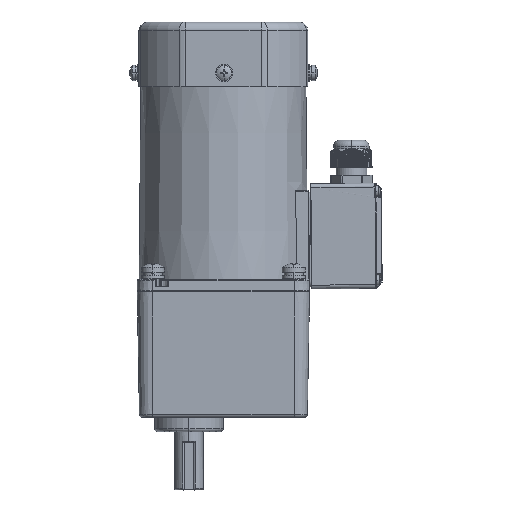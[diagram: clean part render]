
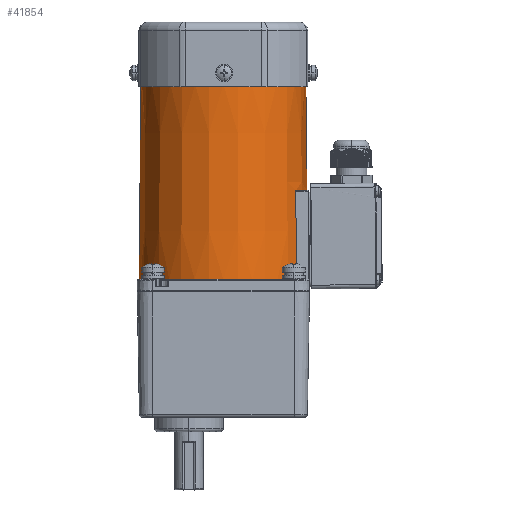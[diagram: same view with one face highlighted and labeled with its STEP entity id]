
A CAD part, front view. The second image highlights one B-rep face of the part: STEP entity #41854.
In plain terms, the highlighted conical face has half-angle 0.5 degrees and reference radius 43.555 mm.
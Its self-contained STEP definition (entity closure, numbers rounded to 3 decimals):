
#572 = DIRECTION ( 'NONE',  ( 0., 0., 1. ) ) ;
#625 = CIRCLE ( 'NONE', #27853, 43.11 ) ;
#675 = VERTEX_POINT ( 'NONE', #61300 ) ;
#1633 = CARTESIAN_POINT ( 'NONE',  ( 37.876, -21.589, 53.28 ) ) ;
#2283 = EDGE_CURVE ( 'NONE', #50212, #17823, #48586, .T. ) ;
#2786 = VECTOR ( 'NONE', #40313, 1000. ) ;
#2828 = EDGE_CURVE ( 'NONE', #50889, #47257, #16838, .T. ) ;
#2887 = VERTEX_POINT ( 'NONE', #51611 ) ;
#3732 = AXIS2_PLACEMENT_3D ( 'NONE', #17536, #31770, #50985 ) ;
#5207 = ORIENTED_EDGE ( 'NONE', *, *, #2828, .T. ) ;
#5671 = DIRECTION ( 'NONE',  ( 0., 0., 1. ) ) ;
#7629 = CARTESIAN_POINT ( 'NONE',  ( 38.028, -21.866, 22.401 ) ) ;
#8592 = CIRCLE ( 'NONE', #13634, 44. ) ;
#9164 = EDGE_CURVE ( 'NONE', #41836, #47257, #46296, .T. ) ;
#9246 = EDGE_LOOP ( 'NONE', ( #42943, #30134, #49096, #36566, #45842, #31747, #5207 ) ) ;
#12141 = VECTOR ( 'NONE', #23699, 1000. ) ;
#12344 = CARTESIAN_POINT ( 'NONE',  ( 38.105, -22., 7. ) ) ;
#13489 = EDGE_CURVE ( 'NONE', #2887, #675, #53435, .T. ) ;
#13634 = AXIS2_PLACEMENT_3D ( 'NONE', #30282, #5671, #53007 ) ;
#14198 = CARTESIAN_POINT ( 'NONE',  ( -43.11, 0., 109. ) ) ;
#16838 = CIRCLE ( 'NONE', #3732, 43.594 ) ;
#17536 = CARTESIAN_POINT ( 'NONE',  ( 0., 0., 53.5 ) ) ;
#17823 = VERTEX_POINT ( 'NONE', #44657 ) ;
#18993 = DIRECTION ( 'NONE',  ( 0., 0., -1. ) ) ;
#20582 = CARTESIAN_POINT ( 'NONE',  ( 37.872, -21.597, 53.203 ) ) ;
#20891 = CARTESIAN_POINT ( 'NONE',  ( 37.95, -21.454, 53.469 ) ) ;
#20972 = EDGE_CURVE ( 'NONE', #50212, #41836, #625, .T. ) ;
#21108 = CARTESIAN_POINT ( 'NONE',  ( -43.11, 0., 109. ) ) ;
#22153 = CARTESIAN_POINT ( 'NONE',  ( 37.872, -21.597, 53.203 ) ) ;
#23699 = DIRECTION ( 'NONE',  ( -0.009, 0., -1. ) ) ;
#24182 = EDGE_CURVE ( 'NONE', #675, #50889, #51400, .T. ) ;
#25641 = CARTESIAN_POINT ( 'NONE',  ( 37.909, -21.528, 53.393 ) ) ;
#27031 = CARTESIAN_POINT ( 'NONE',  ( 38.038, -21.297, 53.5 ) ) ;
#27718 = CONICAL_SURFACE ( 'NONE', #53910, 43.555, 0.009 ) ;
#27853 = AXIS2_PLACEMENT_3D ( 'NONE', #29932, #572, #59566 ) ;
#28259 = CARTESIAN_POINT ( 'NONE',  ( 37.872, -21.596, 53.243 ) ) ;
#29932 = CARTESIAN_POINT ( 'NONE',  ( 0., 0., 109. ) ) ;
#30134 = ORIENTED_EDGE ( 'NONE', *, *, #20972, .F. ) ;
#30282 = CARTESIAN_POINT ( 'NONE',  ( 0., 0., 7. ) ) ;
#31747 = ORIENTED_EDGE ( 'NONE', *, *, #24182, .T. ) ;
#31770 = DIRECTION ( 'NONE',  ( 0., 0., 1. ) ) ;
#36566 = ORIENTED_EDGE ( 'NONE', *, *, #57410, .T. ) ;
#39839 = CARTESIAN_POINT ( 'NONE',  ( 37.903, -21.538, 53.379 ) ) ;
#40313 = DIRECTION ( 'NONE',  ( 0.009, 0., -1. ) ) ;
#41836 = VERTEX_POINT ( 'NONE', #46803 ) ;
#41854 = ADVANCED_FACE ( 'NONE', ( #61600 ), #27718, .T. ) ;
#42793 = CARTESIAN_POINT ( 'NONE',  ( 38.038, -21.297, 53.5 ) ) ;
#42943 = ORIENTED_EDGE ( 'NONE', *, *, #9164, .F. ) ;
#44657 = CARTESIAN_POINT ( 'NONE',  ( -44., 0., 7. ) ) ;
#45842 = ORIENTED_EDGE ( 'NONE', *, *, #13489, .T. ) ;
#46130 = CARTESIAN_POINT ( 'NONE',  ( 37.95, -21.731, 37.802 ) ) ;
#46296 = LINE ( 'NONE', #60483, #2786 ) ;
#46803 = CARTESIAN_POINT ( 'NONE',  ( 43.11, 0., 109. ) ) ;
#47257 = VERTEX_POINT ( 'NONE', #59949 ) ;
#47511 = CARTESIAN_POINT ( 'NONE',  ( 37.991, -21.382, 53.5 ) ) ;
#48586 = LINE ( 'NONE', #14198, #12141 ) ;
#49096 = ORIENTED_EDGE ( 'NONE', *, *, #2283, .T. ) ;
#50212 = VERTEX_POINT ( 'NONE', #21108 ) ;
#50889 = VERTEX_POINT ( 'NONE', #27031 ) ;
#50985 = DIRECTION ( 'NONE',  ( 0.873, -0.489, 0. ) ) ;
#51400 = B_SPLINE_CURVE_WITH_KNOTS ( 'NONE', 3,
 ( #20582, #28259, #1633, #62024, #53710, #39839, #25641, #20891, #47511, #42793 ),
 .UNSPECIFIED., .F., .F.,
 ( 4, 2, 2, 2, 4 ),
 ( 0., 0.25, 0.375, 0.5, 1. ),
 .UNSPECIFIED. ) ;
#51611 = CARTESIAN_POINT ( 'NONE',  ( 38.105, -22., 7. ) ) ;
#53007 = DIRECTION ( 'NONE',  ( -1., 0., 0. ) ) ;
#53435 = B_SPLINE_CURVE_WITH_KNOTS ( 'NONE', 3,
 ( #12344, #7629, #46130, #22153 ),
 .UNSPECIFIED., .F., .F.,
 ( 4, 4 ),
 ( 0., 1. ),
 .UNSPECIFIED. ) ;
#53710 = CARTESIAN_POINT ( 'NONE',  ( 37.892, -21.559, 53.348 ) ) ;
#53910 = AXIS2_PLACEMENT_3D ( 'NONE', #62242, #18993, #57486 ) ;
#57410 = EDGE_CURVE ( 'NONE', #17823, #2887, #8592, .T. ) ;
#57486 = DIRECTION ( 'NONE',  ( 1., 0., 0. ) ) ;
#59566 = DIRECTION ( 'NONE',  ( -1., 0., 0. ) ) ;
#59949 = CARTESIAN_POINT ( 'NONE',  ( 43.594, 0., 53.5 ) ) ;
#60483 = CARTESIAN_POINT ( 'NONE',  ( 43.11, 0., 109. ) ) ;
#61300 = CARTESIAN_POINT ( 'NONE',  ( 37.872, -21.597, 53.203 ) ) ;
#61600 = FACE_OUTER_BOUND ( 'NONE', #9246, .T. ) ;
#62024 = CARTESIAN_POINT ( 'NONE',  ( 37.887, -21.568, 53.332 ) ) ;
#62242 = CARTESIAN_POINT ( 'NONE',  ( 0., 0., 58. ) ) ;
